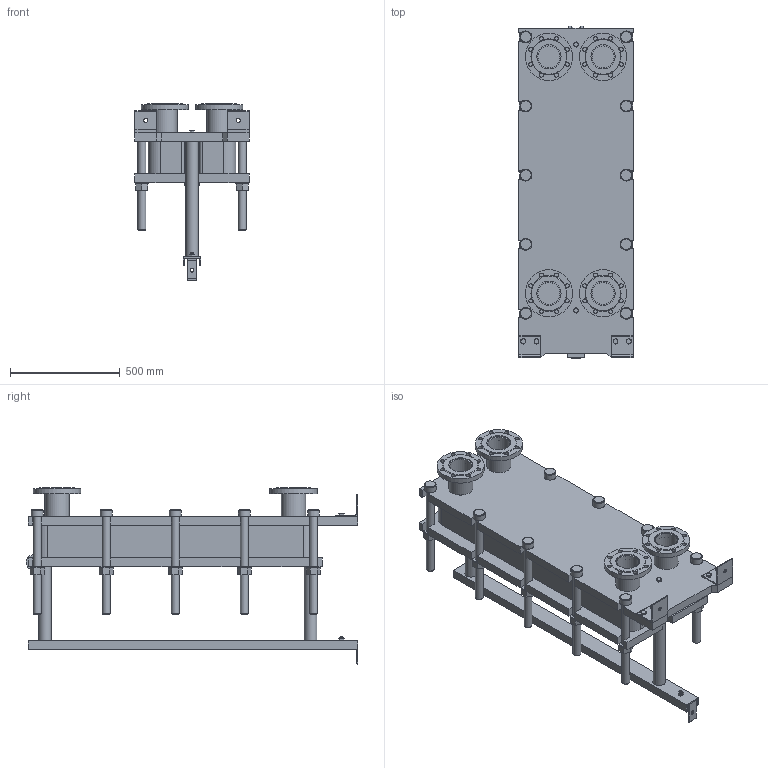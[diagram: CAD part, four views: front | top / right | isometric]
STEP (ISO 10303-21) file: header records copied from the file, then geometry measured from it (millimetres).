
FILE_DESCRIPTION(/* description */ (''),/* implementation_level */ '2;1');
FILE_NAME(/* name */ 'C:\Users\zhuro\Desktop\ENCO\TO\ЭН-04\ЭН-0,5-04-43-1.stp',/* time_stamp */ '2022-06-06T10:47:44+03:00',/* author */ ('zhuro'),/* organization */ (''),/* preprocessor_version */ 'ST-DEVELOPER v18.1',/* originating_system */ 'Autodesk Inventor 2022',/* authorisation */ '');
FILE_SCHEMA (('AUTOMOTIVE_DESIGN { 1 0 10303 214 3 1 1 }'));
Length unit declared in the file: millimetre
Products named in the file (1): ЭН-0,5-04-43-1
Bounding box: 520 x 1510 x 801.5 mm (x, y, z)
Volume: 142276260.7 mm3; surface area: 7101826.6 mm2
Topology: 45 solids, 45 shells, 668 faces, 1611 edges, 1048 vertices
Faces by surface type: plane 457, cylinder 166, cone 39, torus 6
Full cylindrical faces by diameter (mm): 8 x4, 10 x2, 16 x8, 18 x35, 36 x25, 40 x2, 42 x1, 45 x4, 54 x10, 57 x2, 60 x10, 68 x2, 100 x4, 110 x8, 215 x4
Entity records: 23607 total; most frequent: CARTESIAN_POINT 7348, DIRECTION 3371, ORIENTED_EDGE 3142, EDGE_CURVE 1571, AXIS2_PLACEMENT_3D 1199, VERTEX_POINT 1044, LINE 973, VECTOR 973
